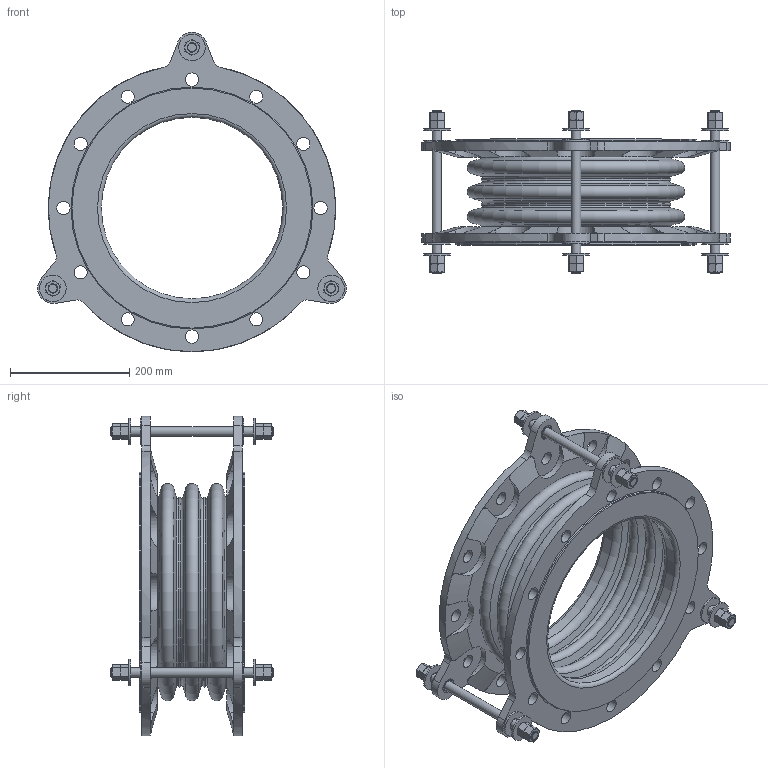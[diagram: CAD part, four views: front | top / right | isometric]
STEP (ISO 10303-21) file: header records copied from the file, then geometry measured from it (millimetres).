
FILE_DESCRIPTION(/* description */ (''),/* implementation_level */ '2;1');
FILE_NAME(/* name */ 'C:\Users\rramoutar\Desktop\803\803 12IDx7FF.stp',/* time_stamp */ '2016-04-24T17:49:08-04:00',/* author */ ('rramoutar'),/* organization */ ('Mason Industries Inc.'),/* preprocessor_version */ 'ST-DEVELOPER v15.6',/* originating_system */ 'Autodesk Inventor 2015',/* authorisation */ '');
FILE_SCHEMA (('CONFIG_CONTROL_DESIGN'));
Length unit declared in the file: inch
Products named in the file (1): 803 12IDx7FF
Bounding box: 518.24 x 273.05 x 536.58 mm (x, y, z)
Volume: 5995004.3 mm3; surface area: 1289772.8 mm2
Topology: 6 solids, 12 shells, 627 faces, 1438 edges, 867 vertices
Faces by surface type: plane 212, cone 210, cylinder 179, torus 26
Full cylindrical faces by diameter (mm): 15.875 x15, 17.462 x6, 19.447 x6, 22.225 x24, 25.003 x6, 25.4 x6, 44.45 x12, 304.8 x2, 311.15 x2, 312.737 x2, 403.225 x2
Entity records: 17498 total; most frequent: CARTESIAN_POINT 4406, DIRECTION 2636, ORIENTED_EDGE 2520, EDGE_CURVE 1260, AXIS2_PLACEMENT_3D 1180, EDGE_LOOP 886, VERTEX_POINT 838, FACE_OUTER_BOUND 627
